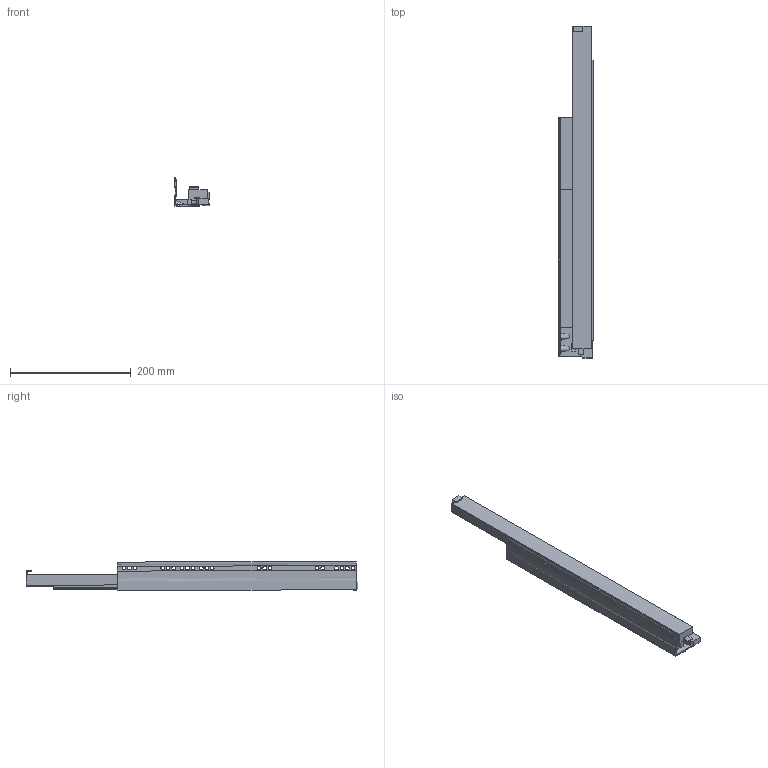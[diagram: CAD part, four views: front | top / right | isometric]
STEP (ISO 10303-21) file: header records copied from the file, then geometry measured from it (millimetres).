
FILE_DESCRIPTION (( 'STEP AP214' ), '1' );
FILE_NAME ('_IMOS_Dynapro_Softclose_D514_NL_550_LI.step', '2010-07-16T06:01:19', ( 'grass' ), ( '' ), 'SwSTEP 2.0', 'SolidWorks 2009', '' );
FILE_SCHEMA (( 'AUTOMOTIVE_DESIGN' ));
Length unit declared in the file: millimetre
Products named in the file (1): _IMOS_Dynapro_Softclose_D514_NL_550_LI
Bounding box: 57.08 x 550.07 x 47.86 mm (x, y, z)
Volume: 473857.7 mm3; surface area: 154496.8 mm2
Topology: 1 solids, 1 shells, 126 faces, 427 edges, 299 vertices
Faces by surface type: plane 77, cylinder 42, bspline 7
Entity records: 5491 total; most frequent: CARTESIAN_POINT 1567, ORIENTED_EDGE 846, DIRECTION 765, EDGE_CURVE 423, LINE 315, VECTOR 315, VERTEX_POINT 299, AXIS2_PLACEMENT_3D 225
